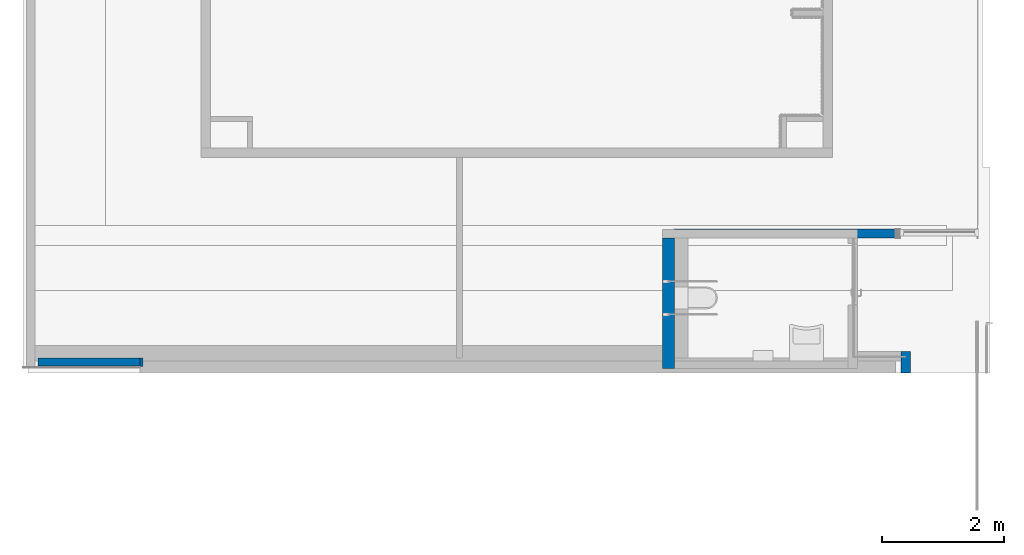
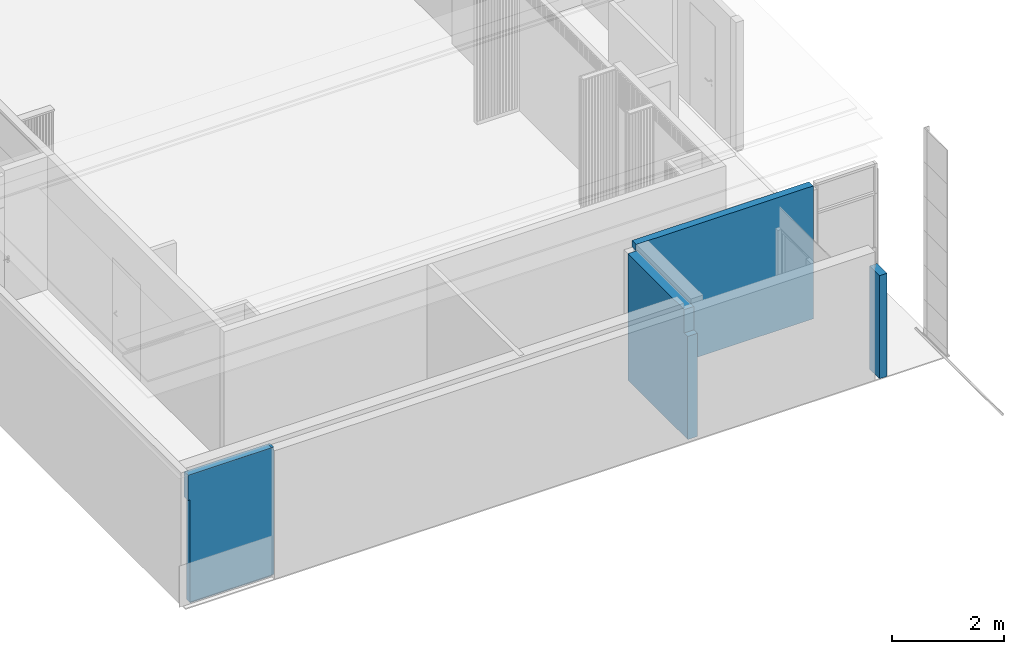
# One storey, part 26 of 37: 5 walls.
"""IFC2X3 building model written with IfcOpenShell, lengths in millimetres."""

from ifc_helpers import new_model, entity, si_unit, converted_unit, derived_unit, direction, frame, origin_with_axes, place, context, subcontext, project, spatial, faceted_brep, material, layer, layer_set, type_object, element, save


model = new_model("IFC2X3")

# Units and contexts
model_context = context("Model", 3, precision=0.01, world=frame((0.0, 4.29681676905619e-09, 0.0)), true_north=direction((4.01073788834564e-13, 1.0)))
plan_context = context("Plan", 3, precision=0.01, world=frame((0.0, 4.29681676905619e-09, 0.0)), true_north=direction((4.01073788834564e-13, 1.0)))
body_context = subcontext(model_context, "Body", "Model", "MODEL_VIEW")
ifc_project = project(units=[converted_unit("PLANEANGLEUNIT", "DEGREE", entity("IfcPositiveLengthMeasure", 0.0174532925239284), si_unit("PLANEANGLEUNIT", "RADIAN"), dimensions=[0, 0, 0, 0, 0, 0, 0]), si_unit("AREAUNIT", "SQUARE_METRE"), si_unit("LENGTHUNIT", "METRE", prefix="MILLI"), si_unit("MASSUNIT", "GRAM", prefix="KILO"), si_unit("POWERUNIT", "WATT"), si_unit("PRESSUREUNIT", "PASCAL"), si_unit("FORCEUNIT", "NEWTON", prefix="KILO"), si_unit("ELECTRICVOLTAGEUNIT", "VOLT"), si_unit("ELECTRICCURRENTUNIT", "AMPERE"), si_unit("THERMODYNAMICTEMPERATUREUNIT", "DEGREE_CELSIUS"), si_unit("TIMEUNIT", "SECOND"), si_unit("VOLUMEUNIT", "CUBIC_METRE"), derived_unit("LINEARVELOCITYUNIT", [(si_unit("LENGTHUNIT", "METRE"), 1), (si_unit("TIMEUNIT", "SECOND"), -1)]), derived_unit("VOLUMETRICFLOWRATEUNIT", [(si_unit("VOLUMEUNIT", "CUBIC_METRE"), 1), (si_unit("TIMEUNIT", "SECOND"), -1)]), derived_unit("THERMALTRANSMITTANCEUNIT", [(si_unit("POWERUNIT", "WATT"), 1), (si_unit("THERMODYNAMICTEMPERATUREUNIT", "KELVIN"), -1), (si_unit("AREAUNIT", "SQUARE_METRE"), -1)]), derived_unit("SOUNDPRESSUREUNIT", [(si_unit("PRESSUREUNIT", "PASCAL"), 1)])], contexts=[model_context, plan_context])

# Site, building, storey
site_placement = place(None, origin_with_axes())
site = spatial("IfcSite", under=ifc_project, at=site_placement, Name="ENGM", CompositionType="ELEMENT")
building_placement = place(site_placement, origin_with_axes())
building = spatial("IfcBuilding", under=site, at=building_placement, Name="TS", CompositionType="ELEMENT")
storey_placement = place(building_placement, frame((0.0, 0.0, 210900.0), z_axis=(0.0, 0.0, 1.0), x_axis=(1.0, 0.0, 0.0)))
storey = spatial("IfcBuildingStorey", under=building, at=storey_placement, Name="Nivå F", CompositionType="ELEMENT", Elevation=210900.0)

# Walls
ifc_material_1 = material(Name="Plate - Gips")
ifc_layer_1 = layer(ifc_material_1, 12.5)
ifc_layer_2 = layer(ifc_material_1, 12.5)
ifc_material_2 = material(Name="_NSW Stålstender, uisolert")
ifc_layer_3 = layer(ifc_material_2, 100.0)
ifc_layer_4 = layer(ifc_material_1, 12.5)
ifc_layer_5 = layer(ifc_material_1, 12.5)
ifc_layer_set_1 = layer_set([ifc_layer_1, ifc_layer_2, ifc_layer_3, ifc_layer_4, ifc_layer_5], Name="Basic Wall:A241 - GSVS-30 (100/100 gg-gg)")
wall_type_1 = type_object("IfcWallType", Name="Basic Wall:A241 - GSVS-30 (100/100 gg-gg)", PredefinedType="STANDARD", material=ifc_layer_set_1)
wall_1_placement = place(storey_placement, frame((531115.000000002, 443059.999999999, 0.0), z_axis=(0.0, 0.0, 1.0), x_axis=(1.0, 0.0, 0.0)))
element("IfcWall", 1, at=wall_1_placement, inside=storey, type_object=wall_type_1, Name="Basic Wall:A241 - GSVS-30 (100/100 gg-gg)", ObjectType="Basic Wall:A241 - GSVS-30 (100/100 gg-gg)", context=body_context, shape_type="Brep", body=[
    faceted_brep([(30.9874999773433, -75.0, 0.0), (3655.0, -75.0, 0.0), (3655.0, -75.0, 22.0), (3655.0, -75.0, 2900.0), (0.0, -75.0, 2900.0), (0.0, -75.0, 2760.0), (30.9874999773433, -75.0, 2760.0), (30.9874999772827, 75.0, 0.0), (30.9874999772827, 75.0, 2760.0), (0.0, 75.0, 2760.0), (0.0, 75.0, 2900.0), (3655.0, 75.0, 2900.0), (3655.0, 75.0, 22.0), (3655.0, 75.0, 0.0), (30.9874999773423, -72.4999999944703, 0.0), (30.9874999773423, -72.4999999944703, 2760.0)], [[[0, 1, 2, 3, 4, 5, 6]], [[7, 8, 9, 10, 11, 12, 13]], [[1, 0, 14, 7, 13]], [[3, 2, 1, 13, 12, 11]], [[4, 3, 11, 10]], [[5, 9, 8, 15, 6]], [[0, 6, 15, 8, 7, 14]], [[5, 4, 10, 9]]]),
])
ifc_layer_6 = layer(ifc_material_1, 12.5)
ifc_material_3 = material(Name="_NSW X-finer")
ifc_layer_7 = layer(ifc_material_3, 15.0)
ifc_layer_8 = layer(ifc_material_2, 100.0)
ifc_layer_9 = layer(ifc_material_1, 12.5)
ifc_layer_set_2 = layer_set([ifc_layer_6, ifc_layer_7, ifc_layer_8, ifc_layer_9], Name="Basic Wall:A241 - SXVS-100")
wall_type_2 = type_object("IfcWallType", Name="Basic Wall:A241 - SXVS-100", PredefinedType="STANDARD", material=ifc_layer_set_2)
wall_2_placement = place(storey_placement, frame((522427.500000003, 440954.999999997, 22.0), z_axis=(0.0, 0.0, 1.0), x_axis=(-1.0, 0.0, 0.0)))
element("IfcWall", 2, at=wall_2_placement, inside=storey, type_object=wall_type_2, Name="Basic Wall:A241 - SXVS-100", ObjectType="Basic Wall:A241 - SXVS-100", context=body_context, shape_type="Brep", body=[
    faceted_brep([(0.0, -70.0, 0.0), (1726.51249997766, -70.0, 0.0), (1726.51249997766, -70.0, 2228.0), (1771.50000000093, -70.0, 2228.0), (1771.50000000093, -70.0, 2778.0), (0.0, -70.0, 2778.0), (1771.50000000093, 70.0, 2228.0), (1726.51249997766, 70.0, 2228.0), (1726.51249997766, 70.0, 0.0), (0.0, 70.0, 0.0), (0.0, 70.0, 2778.0), (1771.50000000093, 70.0, 2778.0), (1726.51249997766, -18.0, 2228.0)], [[[0, 1, 2, 3, 4, 5]], [[6, 7, 8, 9, 10, 11]], [[1, 0, 9, 8]], [[9, 0, 5, 10]], [[3, 2, 12, 7, 6]], [[2, 1, 8, 7, 12]], [[3, 6, 11, 4]], [[5, 4, 11, 10]]]),
])
ifc_layer_10 = layer(ifc_material_1, 12.5)
ifc_layer_11 = layer(ifc_material_1, 12.5)
ifc_layer_12 = layer(ifc_material_2, 148.0)
ifc_material_4 = material(Name="T2 - Kryssfiner")
ifc_layer_13 = layer(ifc_material_4, 15.0)
ifc_material_5 = material(Name="T2_Gips Robust")
ifc_layer_14 = layer(ifc_material_5, 12.5)
ifc_layer_set_3 = layer_set([ifc_layer_10, ifc_layer_11, ifc_layer_12, ifc_layer_13, ifc_layer_14], Name="Basic Wall:A241 - SSVXR-150")
wall_type_3 = type_object("IfcWallType", Name="Basic Wall:A241 - SSVXR-150", PredefinedType="STANDARD", material=ifc_layer_set_3)
wall_3_placement = place(storey_placement, frame((531045.737499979, 442987.500000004, 0.0), z_axis=(0.0, 0.0, 1.0), x_axis=(0.0, -1.0, 0.0)))
element("IfcWall", 3, at=wall_3_placement, inside=storey, type_object=wall_type_3, Name="Basic Wall:A241 - SSVXR-150", ObjectType="Basic Wall:A241 - SSVXR-150", context=body_context, shape_type="Brep", body=[
    faceted_brep([(0.0, -100.250000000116, 0.0), (2138.50000000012, -100.250000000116, 0.0), (2138.50000000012, -100.250000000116, 2250.0), (2014.50000001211, -100.250000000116, 2250.0), (2014.50000001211, -100.250000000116, 2760.0), (0.0, -100.250000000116, 2760.0), (0.0, 100.25, 0.0), (0.0, 100.25, 2760.0), (2.50000000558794, 100.25, 2760.0), (2014.50000001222, 100.25, 2760.0), (2014.50000001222, 100.25, 2250.0), (2138.50000000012, 100.25, 2250.0), (2138.50000000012, 100.25, 0.0), (2014.0, 100.25, 0.0), (2.50000000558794, 100.25, 0.0)], [[[0, 1, 2, 3, 4, 5]], [[6, 7, 8, 9, 10, 11, 12, 13, 14]], [[1, 0, 6, 14, 13, 12]], [[5, 4, 9, 8, 7]], [[0, 5, 7, 6]], [[10, 3, 2, 11]], [[2, 1, 12, 11]], [[4, 3, 10, 9]]]),
])
ifc_material_6 = material(Name="T2_Gips Fibergips")
ifc_layer_15 = layer(ifc_material_6, 13.0)
ifc_layer_16 = layer(ifc_material_4, 15.0)
ifc_layer_17 = layer(ifc_material_2, 100.0)
ifc_layer_18 = layer(ifc_material_4, 15.0)
ifc_layer_19 = layer(ifc_material_6, 13.0)
ifc_layer_set_4 = layer_set([ifc_layer_15, ifc_layer_16, ifc_layer_17, ifc_layer_18, ifc_layer_19], Name="Basic Wall:A241 - RXVXR-100")
wall_type_4 = type_object("IfcWallType", Name="Basic Wall:A241 - RXVXR-100", PredefinedType="STANDARD", material=ifc_layer_set_4)
wall_4_placement = place(storey_placement, frame((534936.987500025, 441128.999999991, 0.0), z_axis=(0.0, 0.0, 1.0), x_axis=(0.0, -1.0, 0.0)))
element("IfcWall", 4, at=wall_4_placement, inside=storey, type_object=wall_type_4, Name="Basic Wall:A241 - RXVXR-100", ObjectType="Basic Wall:A241 - RXVXR-100", context=body_context, shape_type="Brep", body=[
    faceted_brep([(353.999999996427, 78.0000000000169, 0.0), (353.999999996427, 78.0000000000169, 2250.00000000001), (0.0, 78.0000000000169, 2250.00000000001), (0.0, 78.0000000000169, 0.0), (0.0, -78.0000000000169, 2250.00000000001), (0.0, -78.0000000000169, 0.0), (353.999999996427, -78.0000000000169, 2250.00000000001), (353.999999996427, -78.0000000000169, 0.0)], [[[0, 1, 2, 3]], [[3, 2, 4, 5]], [[6, 7, 5, 4]], [[7, 0, 3, 5]], [[1, 6, 4, 2]], [[7, 6, 1, 0]]], orient=[[False], [False], [False], [False], [False], [False]]),
])
ifc_material_7 = material(Name="T2_Fibersement")
ifc_layer_20 = layer(ifc_material_7, 15.0)
ifc_material_8 = material(Name="T2_X-finer")
ifc_layer_21 = layer(ifc_material_8, 12.0)
ifc_layer_22 = layer(ifc_material_2, 100.0)
ifc_material_9 = material(Name="T2_svartorfinert X-finer")
ifc_layer_23 = layer(ifc_material_9, 12.0)
ifc_layer_set_5 = layer_set([ifc_layer_20, ifc_layer_21, ifc_layer_22, ifc_layer_23], Name="Basic Wall:A241 - V4")
wall_type_5 = type_object("IfcWallType", Name="Basic Wall:A241 - V4", PredefinedType="STANDARD", material=ifc_layer_set_5)
wall_5_placement = place(storey_placement, frame((520656.000000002, 440955.499999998, 0.0), z_axis=(0.0, 0.0, 1.0), x_axis=(1.0, 0.0, 0.0)))
element("IfcWall", 5, at=wall_5_placement, inside=storey, type_object=wall_type_5, Name="Basic Wall:A241 - V4", ObjectType="Basic Wall:A241 - V4", context=body_context, shape_type="Brep", body=[
    faceted_brep([(44.9875000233, -69.5, 0.0), (1721.49999999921, -69.5000000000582, 0.0), (1721.49999999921, -69.5000000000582, 2800.0), (0.0, -69.5, 2800.0), (0.0, -69.5000000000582, 2250.0), (44.9875000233, -69.5, 2250.0), (44.9875000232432, 69.5, 0.0), (44.9875000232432, 69.5, 2250.0), (0.0, 69.5, 2250.0), (0.0, 69.5, 2800.0), (1721.49999999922, 69.4999999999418, 2800.0), (1721.49999999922, 69.4999999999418, 0.0), (44.9875000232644, 17.4999999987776, 0.0), (44.9875000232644, 17.4999999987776, 2250.0)], [[[0, 1, 2, 3, 4, 5]], [[6, 7, 8, 9, 10, 11]], [[1, 0, 12, 6, 11]], [[2, 1, 11, 10]], [[3, 2, 10, 9]], [[4, 8, 7, 13, 5]], [[0, 5, 13, 7, 6, 12]], [[4, 3, 9, 8]]]),
])

save(model, "model.ifc")
